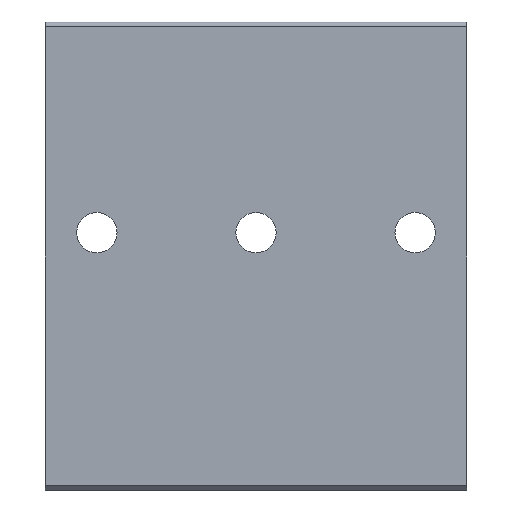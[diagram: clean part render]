
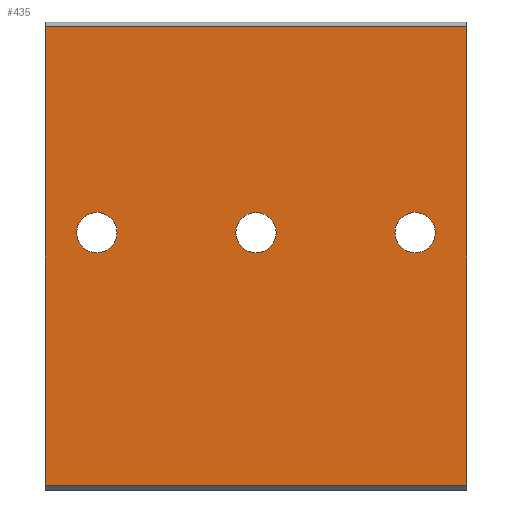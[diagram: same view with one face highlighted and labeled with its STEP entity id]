
A CAD part, front view. The second image highlights one B-rep face of the part: STEP entity #435.
In plain terms, the highlighted planar face has unit normal (0, -1, 0).
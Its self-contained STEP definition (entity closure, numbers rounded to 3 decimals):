
#74 = CIRCLE ( 'NONE', #138, 2.155 ) ;
#105 = AXIS2_PLACEMENT_3D ( 'NONE', #1652, #171, #1345 ) ;
#138 = AXIS2_PLACEMENT_3D ( 'NONE', #3421, #2519, #1429 ) ;
#141 = DIRECTION ( 'NONE',  ( 0., 0., -1. ) ) ;
#171 = DIRECTION ( 'NONE',  ( 0., -1., 0. ) ) ;
#190 = CIRCLE ( 'NONE', #2326, 2.155 ) ;
#242 = VERTEX_POINT ( 'NONE', #1180 ) ;
#319 = DIRECTION ( 'NONE',  ( 0., 0., 1. ) ) ;
#336 = EDGE_CURVE ( 'NONE', #756, #3327, #190, .T. ) ;
#408 = AXIS2_PLACEMENT_3D ( 'NONE', #2031, #2048, #319 ) ;
#435 = ADVANCED_FACE ( 'NONE', ( #1214, #981, #2706, #664 ), #3601, .F. ) ;
#536 = CARTESIAN_POINT ( 'NONE',  ( 22.5, 0., -49.5 ) ) ;
#624 = LINE ( 'NONE', #3548, #1404 ) ;
#656 = CARTESIAN_POINT ( 'NONE',  ( -17., 0., -29.655 ) ) ;
#664 = FACE_BOUND ( 'NONE', #1541, .T. ) ;
#698 = CARTESIAN_POINT ( 'NONE',  ( -17., 0., -25.345 ) ) ;
#701 = DIRECTION ( 'NONE',  ( 0., 0., 1. ) ) ;
#756 = VERTEX_POINT ( 'NONE', #656 ) ;
#861 = DIRECTION ( 'NONE',  ( 0., -1., 0. ) ) ;
#923 = DIRECTION ( 'NONE',  ( 1., 0., 0. ) ) ;
#924 = VECTOR ( 'NONE', #141, 1000. ) ;
#980 = VERTEX_POINT ( 'NONE', #2789 ) ;
#981 = FACE_BOUND ( 'NONE', #3593, .T. ) ;
#1180 = CARTESIAN_POINT ( 'NONE',  ( 17., 0., -29.655 ) ) ;
#1206 = ORIENTED_EDGE ( 'NONE', *, *, #3316, .F. ) ;
#1214 = FACE_OUTER_BOUND ( 'NONE', #3103, .T. ) ;
#1230 = DIRECTION ( 'NONE',  ( -1., 0., 0. ) ) ;
#1240 = AXIS2_PLACEMENT_3D ( 'NONE', #3637, #2777, #2187 ) ;
#1333 = EDGE_CURVE ( 'NONE', #1799, #242, #2223, .T. ) ;
#1345 = DIRECTION ( 'NONE',  ( 0., 0., -1. ) ) ;
#1347 = VERTEX_POINT ( 'NONE', #1484 ) ;
#1404 = VECTOR ( 'NONE', #923, 1000. ) ;
#1406 = ORIENTED_EDGE ( 'NONE', *, *, #3410, .F. ) ;
#1413 = ORIENTED_EDGE ( 'NONE', *, *, #3196, .F. ) ;
#1429 = DIRECTION ( 'NONE',  ( 0., 0., 1. ) ) ;
#1473 = ORIENTED_EDGE ( 'NONE', *, *, #3244, .F. ) ;
#1484 = CARTESIAN_POINT ( 'NONE',  ( 0., 0., -29.65 ) ) ;
#1507 = VERTEX_POINT ( 'NONE', #3212 ) ;
#1512 = CIRCLE ( 'NONE', #105, 2.15 ) ;
#1519 = LINE ( 'NONE', #2680, #3185 ) ;
#1541 = EDGE_LOOP ( 'NONE', ( #3209, #2435 ) ) ;
#1560 = CARTESIAN_POINT ( 'NONE',  ( 22.5, 0., -7.3 ) ) ;
#1568 = VERTEX_POINT ( 'NONE', #2446 ) ;
#1652 = CARTESIAN_POINT ( 'NONE',  ( 0., 0., -27.5 ) ) ;
#1799 = VERTEX_POINT ( 'NONE', #2874 ) ;
#1825 = CARTESIAN_POINT ( 'NONE',  ( 22.5, 0., -7.3 ) ) ;
#1924 = CARTESIAN_POINT ( 'NONE',  ( 17., 0., -27.5 ) ) ;
#1961 = EDGE_CURVE ( 'NONE', #1568, #1507, #624, .T. ) ;
#1971 = ORIENTED_EDGE ( 'NONE', *, *, #2814, .F. ) ;
#2031 = CARTESIAN_POINT ( 'NONE',  ( 17., 0., -27.5 ) ) ;
#2048 = DIRECTION ( 'NONE',  ( 0., -1., 0. ) ) ;
#2055 = DIRECTION ( 'NONE',  ( 0., 0., 1. ) ) ;
#2071 = CARTESIAN_POINT ( 'NONE',  ( -22.5, 0., -7.3 ) ) ;
#2187 = DIRECTION ( 'NONE',  ( 0., 0., -1. ) ) ;
#2223 = CIRCLE ( 'NONE', #3447, 2.155 ) ;
#2306 = DIRECTION ( 'NONE',  ( 0., -1., 0. ) ) ;
#2326 = AXIS2_PLACEMENT_3D ( 'NONE', #2644, #2306, #2928 ) ;
#2433 = CARTESIAN_POINT ( 'NONE',  ( 0., 0., -25.35 ) ) ;
#2435 = ORIENTED_EDGE ( 'NONE', *, *, #336, .F. ) ;
#2446 = CARTESIAN_POINT ( 'NONE',  ( -22.5, 0., -0.5 ) ) ;
#2519 = DIRECTION ( 'NONE',  ( 0., -1., 0. ) ) ;
#2578 = VECTOR ( 'NONE', #3235, 1000. ) ;
#2588 = EDGE_CURVE ( 'NONE', #242, #1799, #3709, .T. ) ;
#2640 = LINE ( 'NONE', #2071, #2578 ) ;
#2644 = CARTESIAN_POINT ( 'NONE',  ( -17., 0., -27.5 ) ) ;
#2680 = CARTESIAN_POINT ( 'NONE',  ( 22.5, 0., -49.5 ) ) ;
#2706 = FACE_BOUND ( 'NONE', #3693, .T. ) ;
#2718 = VERTEX_POINT ( 'NONE', #2433 ) ;
#2750 = ORIENTED_EDGE ( 'NONE', *, *, #2588, .F. ) ;
#2775 = VERTEX_POINT ( 'NONE', #536 ) ;
#2777 = DIRECTION ( 'NONE',  ( 0., -1., 0. ) ) ;
#2789 = CARTESIAN_POINT ( 'NONE',  ( -22.5, 0., -49.5 ) ) ;
#2814 = EDGE_CURVE ( 'NONE', #2718, #1347, #1512, .T. ) ;
#2874 = CARTESIAN_POINT ( 'NONE',  ( 17., 0., -25.345 ) ) ;
#2928 = DIRECTION ( 'NONE',  ( 0., 0., 1. ) ) ;
#3086 = LINE ( 'NONE', #1560, #924 ) ;
#3103 = EDGE_LOOP ( 'NONE', ( #3712, #1413, #1473, #1206 ) ) ;
#3131 = CIRCLE ( 'NONE', #1240, 2.15 ) ;
#3185 = VECTOR ( 'NONE', #1230, 1000. ) ;
#3196 = EDGE_CURVE ( 'NONE', #980, #1568, #2640, .T. ) ;
#3209 = ORIENTED_EDGE ( 'NONE', *, *, #3527, .F. ) ;
#3212 = CARTESIAN_POINT ( 'NONE',  ( 22.5, 0., -0.5 ) ) ;
#3235 = DIRECTION ( 'NONE',  ( 0., 0., 1. ) ) ;
#3244 = EDGE_CURVE ( 'NONE', #2775, #980, #1519, .T. ) ;
#3316 = EDGE_CURVE ( 'NONE', #1507, #2775, #3086, .T. ) ;
#3322 = DIRECTION ( 'NONE',  ( 0., 1., 0. ) ) ;
#3327 = VERTEX_POINT ( 'NONE', #698 ) ;
#3410 = EDGE_CURVE ( 'NONE', #1347, #2718, #3131, .T. ) ;
#3421 = CARTESIAN_POINT ( 'NONE',  ( -17., 0., -27.5 ) ) ;
#3447 = AXIS2_PLACEMENT_3D ( 'NONE', #1924, #861, #2055 ) ;
#3527 = EDGE_CURVE ( 'NONE', #3327, #756, #74, .T. ) ;
#3548 = CARTESIAN_POINT ( 'NONE',  ( 22.5, 0., -0.5 ) ) ;
#3593 = EDGE_LOOP ( 'NONE', ( #1406, #1971 ) ) ;
#3601 = PLANE ( 'NONE',  #3725 ) ;
#3637 = CARTESIAN_POINT ( 'NONE',  ( 0., 0., -27.5 ) ) ;
#3650 = ORIENTED_EDGE ( 'NONE', *, *, #1333, .F. ) ;
#3693 = EDGE_LOOP ( 'NONE', ( #3650, #2750 ) ) ;
#3709 = CIRCLE ( 'NONE', #408, 2.155 ) ;
#3712 = ORIENTED_EDGE ( 'NONE', *, *, #1961, .F. ) ;
#3725 = AXIS2_PLACEMENT_3D ( 'NONE', #1825, #3322, #701 ) ;
